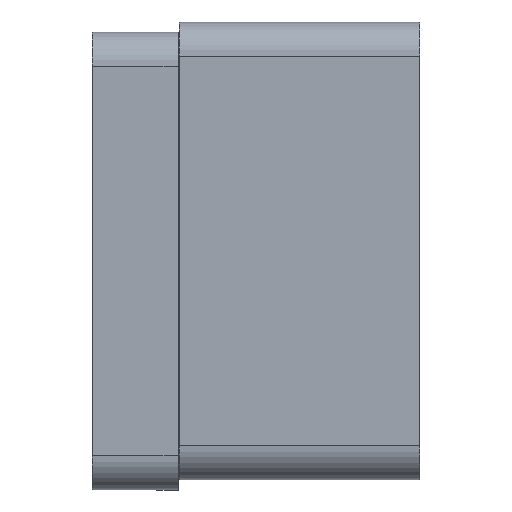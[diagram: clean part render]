
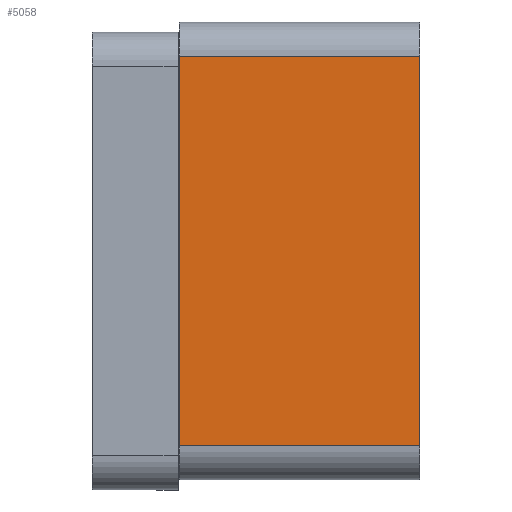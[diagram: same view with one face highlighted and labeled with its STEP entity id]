
A CAD part, left-side view. The second image highlights one B-rep face of the part: STEP entity #5058.
In plain terms, the highlighted planar face has unit normal (-1, 0, 0).
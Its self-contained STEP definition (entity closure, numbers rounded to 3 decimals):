
#429 = ORIENTED_EDGE ( 'NONE', *, *, #5024, .F. ) ;
#1333 = CARTESIAN_POINT ( 'NONE',  ( -37.5, 42., -40. ) ) ;
#1574 = PLANE ( 'NONE',  #10055 ) ;
#1716 = ORIENTED_EDGE ( 'NONE', *, *, #18236, .T. ) ;
#3226 = ORIENTED_EDGE ( 'NONE', *, *, #3530, .T. ) ;
#3505 = DIRECTION ( 'NONE',  ( 0., 0., -1. ) ) ;
#3530 = EDGE_CURVE ( 'NONE', #22780, #8847, #8583, .T. ) ;
#3855 = DIRECTION ( 'NONE',  ( 0., -1., 0. ) ) ;
#5024 = EDGE_CURVE ( 'NONE', #13313, #7593, #16461, .T. ) ;
#5058 = ADVANCED_FACE ( 'NONE', ( #18156 ), #1574, .F. ) ;
#7593 = VERTEX_POINT ( 'NONE', #16164 ) ;
#8563 = LINE ( 'NONE', #9570, #16686 ) ;
#8583 = LINE ( 'NONE', #19606, #22655 ) ;
#8847 = VERTEX_POINT ( 'NONE', #22954 ) ;
#8961 = CARTESIAN_POINT ( 'NONE',  ( -37.5, 42., -40. ) ) ;
#9290 = VECTOR ( 'NONE', #3855, 1000. ) ;
#9570 = CARTESIAN_POINT ( 'NONE',  ( -37.5, 42., 34. ) ) ;
#10055 = AXIS2_PLACEMENT_3D ( 'NONE', #8961, #16343, #3505 ) ;
#10540 = DIRECTION ( 'NONE',  ( 0., 0., 1. ) ) ;
#12385 = VECTOR ( 'NONE', #10540, 1000. ) ;
#13051 = LINE ( 'NONE', #20440, #9290 ) ;
#13313 = VERTEX_POINT ( 'NONE', #17405 ) ;
#14599 = ORIENTED_EDGE ( 'NONE', *, *, #15536, .T. ) ;
#15281 = CARTESIAN_POINT ( 'NONE',  ( -37.5, 0., -34. ) ) ;
#15536 = EDGE_CURVE ( 'NONE', #13313, #22780, #13051, .T. ) ;
#15845 = DIRECTION ( 'NONE',  ( 0., 0., 1. ) ) ;
#16164 = CARTESIAN_POINT ( 'NONE',  ( -37.5, 42., 34. ) ) ;
#16343 = DIRECTION ( 'NONE',  ( 1., 0., 0. ) ) ;
#16461 = LINE ( 'NONE', #1333, #12385 ) ;
#16686 = VECTOR ( 'NONE', #23335, 1000. ) ;
#17405 = CARTESIAN_POINT ( 'NONE',  ( -37.5, 42., -34. ) ) ;
#18156 = FACE_OUTER_BOUND ( 'NONE', #22522, .T. ) ;
#18236 = EDGE_CURVE ( 'NONE', #8847, #7593, #8563, .T. ) ;
#19606 = CARTESIAN_POINT ( 'NONE',  ( -37.5, 0., -40. ) ) ;
#20440 = CARTESIAN_POINT ( 'NONE',  ( -37.5, 42., -34. ) ) ;
#22522 = EDGE_LOOP ( 'NONE', ( #3226, #1716, #429, #14599 ) ) ;
#22655 = VECTOR ( 'NONE', #15845, 1000. ) ;
#22780 = VERTEX_POINT ( 'NONE', #15281 ) ;
#22954 = CARTESIAN_POINT ( 'NONE',  ( -37.5, 0., 34. ) ) ;
#23335 = DIRECTION ( 'NONE',  ( 0., 1., 0. ) ) ;
